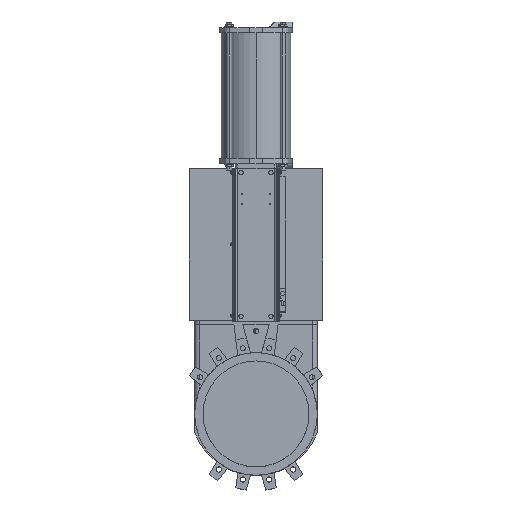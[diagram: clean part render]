
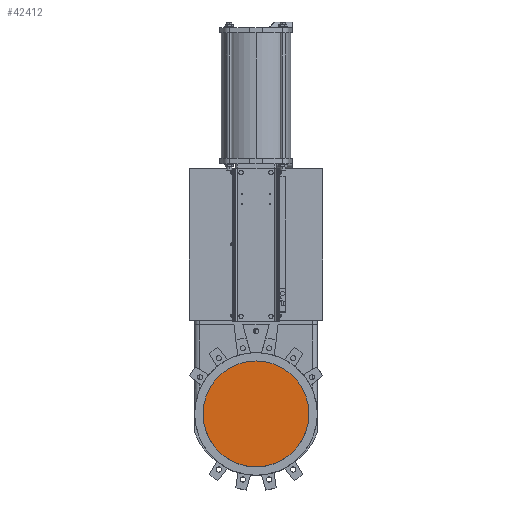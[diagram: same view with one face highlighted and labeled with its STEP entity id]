
A CAD part, top view. The second image highlights one B-rep face of the part: STEP entity #42412.
In plain terms, the highlighted planar face has unit normal (0, 0, 1).
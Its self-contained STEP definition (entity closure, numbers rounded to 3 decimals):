
#5329 = VERTEX_POINT ( 'NONE', #28666 ) ;
#5382 = VERTEX_POINT ( 'NONE', #28659 ) ;
#5968 = EDGE_CURVE ( 'NONE', #5329, #5382, #28850, .T. ) ;
#10370 = CARTESIAN_POINT ( 'NONE',  ( 214., -44.469, 6. ) ) ;
#10524 = CARTESIAN_POINT ( 'NONE',  ( -214., -44.469, 6. ) ) ;
#10672 = DIRECTION ( 'NONE',  ( 1., 0., 0. ) ) ;
#10673 = DIRECTION ( 'NONE',  ( 0., 0., 1. ) ) ;
#10674 = CARTESIAN_POINT ( 'NONE',  ( 0., 20., 6. ) ) ;
#10675 = AXIS2_PLACEMENT_3D ( 'NONE', #10674, #10673, #10672 ) ;
#10676 = CIRCLE ( 'NONE', #10675, 223.5 ) ;
#19132 = DIRECTION ( 'NONE',  ( 0., 1., 0. ) ) ;
#19133 = VECTOR ( 'NONE', #19132, 1000. ) ;
#19134 = CARTESIAN_POINT ( 'NONE',  ( -214., -292.633, 6. ) ) ;
#19135 = LINE ( 'NONE', #19134, #19133 ) ;
#19225 = DIRECTION ( 'NONE',  ( 1., 0., 0. ) ) ;
#19226 = DIRECTION ( 'NONE',  ( 0., 0., 1. ) ) ;
#19227 = CARTESIAN_POINT ( 'NONE',  ( -214., -292.633, 6. ) ) ;
#19230 = AXIS2_PLACEMENT_3D ( 'NONE', #19227, #19226, #19225 ) ;
#19231 = PLANE ( 'NONE',  #19230 ) ;
#19235 = FACE_OUTER_BOUND ( 'NONE', #42395, .T. ) ;
#19271 = DIRECTION ( 'NONE',  ( 0., 1., 0. ) ) ;
#19272 = VECTOR ( 'NONE', #19271, 1000. ) ;
#19273 = CARTESIAN_POINT ( 'NONE',  ( 214., -292.633, 6. ) ) ;
#19275 = LINE ( 'NONE', #19273, #19272 ) ;
#28659 = CARTESIAN_POINT ( 'NONE',  ( -214., 94.657, 6. ) ) ;
#28666 = CARTESIAN_POINT ( 'NONE',  ( 214., 94.657, 6. ) ) ;
#28846 = DIRECTION ( 'NONE',  ( 1., 0., 0. ) ) ;
#28847 = DIRECTION ( 'NONE',  ( 0., 0., 1. ) ) ;
#28848 = CARTESIAN_POINT ( 'NONE',  ( 0., 0., 6. ) ) ;
#28849 = AXIS2_PLACEMENT_3D ( 'NONE', #28848, #28847, #28846 ) ;
#28850 = CIRCLE ( 'NONE', #28849, 234. ) ;
#37466 = VERTEX_POINT ( 'NONE', #10370 ) ;
#37511 = VERTEX_POINT ( 'NONE', #10524 ) ;
#37605 = EDGE_CURVE ( 'NONE', #37511, #37466, #10676, .T. ) ;
#42340 = EDGE_CURVE ( 'NONE', #37511, #5382, #19135, .T. ) ;
#42380 = ORIENTED_EDGE ( 'NONE', *, *, #42340, .F. ) ;
#42395 = EDGE_LOOP ( 'NONE', ( #42400, #42416, #42380, #42427 ) ) ;
#42400 = ORIENTED_EDGE ( 'NONE', *, *, #42417, .T. ) ;
#42412 = ADVANCED_FACE ( 'NONE', ( #19235 ), #19231, .T. ) ;
#42416 = ORIENTED_EDGE ( 'NONE', *, *, #5968, .T. ) ;
#42417 = EDGE_CURVE ( 'NONE', #37466, #5329, #19275, .T. ) ;
#42427 = ORIENTED_EDGE ( 'NONE', *, *, #37605, .T. ) ;
